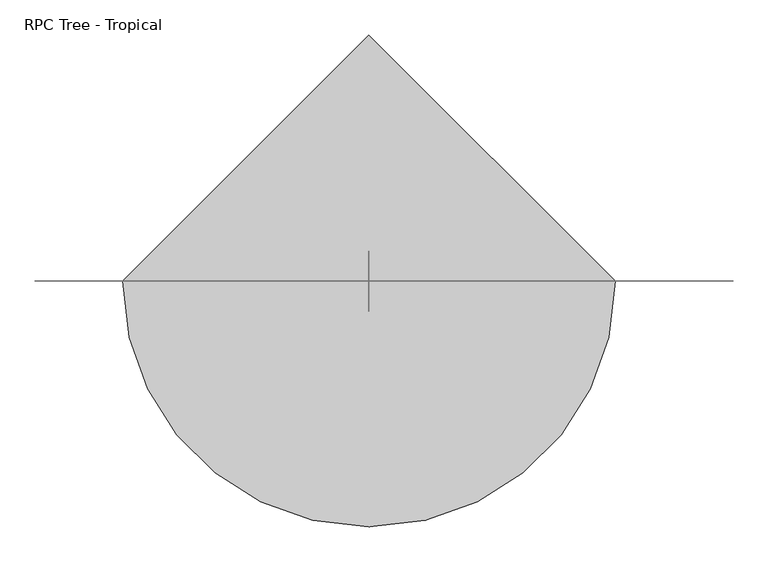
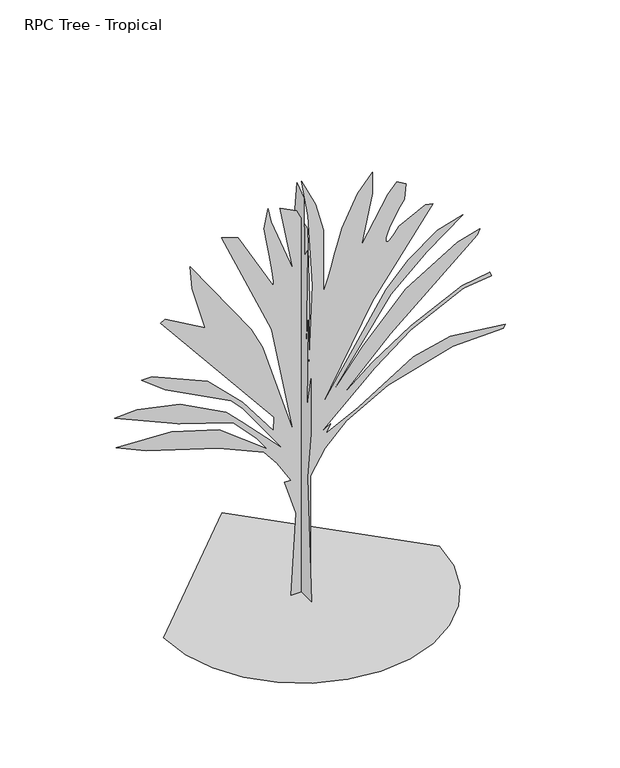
"""IFC4 building model written with IfcOpenShell, lengths in millimetres: geographic element geometry, RPC Tree - Tropical : Travelers Palm - 3.9 Meters."""

from ifc_helpers import new_model, si_unit, origin, place, context, project, spatial, triangles, source, transform, mapped, element, save


def rpc_tree_tropical_44340318(model_context):
    return source(origin(), model_context, "Body", "Tessellation", [
        triangles([(-92.0803806, -0.0077972, 0.060482), (-46.9646024, -0.0078429, 766.967938), (-152.2349211, -0.0078626, 1097.8156214), (-92.0803806, -0.0078623, 1092.8031366), (-217.401701, -0.0078745, 1298.3307804), (-337.7109999, -0.0078835, 1448.7157871), (-743.7512592, -0.007894, 1624.165979), (-1395.4241272, -0.0079062, 1829.6935501), (-1666.1167614, -0.0079137, 1955.0136623), (-1164.8315163, -0.0079122, 1929.9486225), (-738.7387745, -0.0079044, 1799.6160255), (-307.6334753, -0.0078847, 1468.7658714), (-402.8785337, -0.0078928, 1604.1134239), (-613.4187349, -0.0079059, 1824.6784492), (-1104.6764671, -0.0079155, 1985.0910416), (-1681.1568317, -0.0079307, 2240.7462215), (-1475.6291153, -0.0079313, 2250.7738071), (-1089.6389402, -0.0079262, 2165.5537182), (-678.5837254, -0.0079131, 1944.9885475), (-538.2236155, -0.0079047, 1804.6285103), (-167.2734381, -0.007882, 1423.6507473), (-523.1861249, -0.0079119, 1924.9361378), (-633.4686739, -0.0079188, 2040.233606), (-1224.9865654, -0.0079373, 2351.0288795), (-1435.5266212, -0.0079472, 2516.4513405), (-1340.2815628, -0.0079472, 2516.4513405), (-844.0088024, -0.007934, 2295.8887859), (-528.1986096, -0.0079158, 1990.1036716), (-252.4909836, -0.0078937, 1619.1533489), (-247.4789712, -0.0079014, 1749.4859459), (-1265.0890594, -0.0079758, 2997.6766182), (-1224.9865654, -0.0079773, 3022.7518318), (-864.0613575, -0.0079648, 2812.2016022), (-984.3689123, -0.0079896, 3228.2767868), (-999.40891, -0.0080021, 3438.8270164), (-453.0060699, -0.0079555, 2656.8014946), (-347.7360057, -0.007943, 2446.273938), (-72.0293698, -0.0078895, 1548.9733303), (-267.5309813, -0.0079516, 2591.6514015), (-718.6887629, -0.0080129, 3619.2770485), (-568.30114, -0.0080096, 3564.1519249), (-257.5059754, -0.0079764, 3007.7015877), (-249.5834757, -0.0079763, 3005.2767357), (-250.6059787, -0.0079784, 3040.9765915), (-259.0834773, -0.0079824, 3108.4768318), (-273.5234934, -0.007988, 3201.3766846), (-292.4334947, -0.0079947, 3313.376825), (-314.325981, -0.0080021, 3438.0770622), (-337.7109999, -0.0080099, 3569.1519104), (-297.6085058, -0.0080204, 3744.6019569), (-272.5434842, -0.0080126, 3614.277063), (-77.0418727, -0.0079815, 3092.9266182), (-192.3376967, -0.0080186, 3714.5270485), (-41.9520995, -0.0080141, 3639.3269875), (53.2924502, -0.0080018, 3433.8020325), (73.3437154, -0.0079612, 2752.0514946), (63.3179556, -0.0079164, 2000.1286411), (98.4077288, -0.007969, 2882.4016777), (58.3052029, -0.008009, 3554.1269554), (3.1637226, -0.0080296, 3900.0020645), (128.4849899, -0.0080141, 3639.3269875), (198.6650176, -0.0079979, 3368.6519394), (198.6650176, -0.0079636, 2792.1516632), (203.4877792, -0.0079638, 2795.8264389), (216.9920421, -0.007966, 2833.1764847), (237.730293, -0.0079699, 2898.5765625), (264.256817, -0.0079752, 2986.4267235), (295.1218298, -0.0079814, 3091.1017296), (328.8818513, -0.0079883, 3207.0269211), (364.089368, -0.0079956, 3328.5267723), (504.4494779, -0.0080123, 3609.252079), (639.796994, -0.0080216, 3764.6521866), (639.796994, -0.0080096, 3564.1519249), (539.5394872, -0.0079824, 3107.9768623), (780.1571039, -0.008006, 3503.9768188), (860.362092, -0.0080117, 3599.2271095), (940.5671528, -0.0080087, 3549.1019714), (925.5296986, -0.0080003, 3408.7518173), (888.2171505, -0.0079967, 3347.7767601), (852.6171432, -0.0079932, 3288.4518929), (820.4345873, -0.0079898, 3232.3518288), (793.3820961, -0.0079868, 3181.1267578), (773.1695944, -0.0079841, 3136.4018715), (761.5070795, -0.0079819, 3099.7767815), (760.1045488, -0.0079803, 3072.8766792), (766.8870564, -0.0079795, 3058.5516815), (778.1395672, -0.0079794, 3057.1267685), (793.1196121, -0.0079799, 3066.4267822), (811.0821058, -0.007981, 3084.3268524), (831.2796375, -0.0079825, 3108.6768196), (852.9671219, -0.0079842, 3137.326815), (875.3996189, -0.007986, 3168.1266792), (1116.017272, -0.0079932, 3288.4268944), (1181.1848059, -0.0079923, 3273.4019394), (639.796994, -0.0079483, 2536.5012794), (168.5880017, -0.0078976, 1684.3208828), (760.1045488, -0.0079525, 2606.6763565), (960.6197079, -0.0079651, 2817.2265862), (1221.2873726, -0.0079764, 3007.7015877), (1451.8799835, -0.0079806, 3077.9016632), (1131.0572697, -0.0079663, 2837.2765251), (805.2220711, -0.0079489, 2546.5265396), (243.7807958, -0.0079014, 1749.4859459), (559.5920059, -0.0079253, 2150.516264), (935.554668, -0.0079492, 2551.5515236), (1401.7499039, -0.007966, 2832.2515411), (1607.277475, -0.0079693, 2887.4016632), (1582.2125805, -0.0079666, 2842.3015091), (800.2071156, -0.0079268, 2175.5786877), (364.089368, -0.0079008, 1739.4609764), (639.796994, -0.007914, 1960.0261471), (985.684675, -0.0079274, 2185.6062733), (1441.8523979, -0.0079406, 2406.1712986), (1697.5100487, -0.007943, 2446.273938), (1707.5351635, -0.0079406, 2406.1712986), (1456.8924683, -0.0079388, 2376.093774), (985.684675, -0.007925, 2145.5036339), (659.8470057, -0.0079104, 1899.8735687), (178.6137706, -0.0078838, 1453.7282719), (263.8318066, -0.0078871, 1508.8708363), (223.7295306, -0.0078823, 1428.663232), (514.4744837, -0.007891, 1574.0358994), (1005.7346867, -0.0079095, 1884.8334984), (1341.5973255, -0.007914, 1960.0261471), (1832.8576012, -0.0079107, 1904.8860535), (1817.8176762, -0.0079086, 1869.7960442), (1361.6474098, -0.007908, 1859.7686039), (780.1571039, -0.0078979, 1689.3335129), (404.1918983, -0.0078856, 1483.8057964), (213.7037799, -0.0078742, 1293.3156796), (83.3694661, -0.0078614, 1077.763139), (83.3694661, -0.0077972, 0.0), (0.2420326, 53.1400295, 0.0511), (0.2420216, -154.4255849, 0.0510875), (0.2420326, -96.0480527, 1148.1506304), (0.2420216, -147.93958, 1595.715826), (0.2420216, -147.9393348, 2114.631245), (0.2420326, -89.5615482, 1803.2810635), (0.2420326, -102.5340576, 2646.5265404), (0.2420326, -70.1020392, 2341.6563412), (0.2420326, -96.0480527, 3301.6519592), (0.2420326, -50.64278, 3223.8017693), (0.2420326, -44.1565253, 3768.6772316), (0.2420433, 66.1132883, 3846.5021324), (0.2420433, 130.9775703, 3321.1019348), (0.2420433, 150.4368386, 2568.6763504), (0.2420433, 105.0318066, 1920.0386169), (0.2420326, 53.1400295, 1102.7456257), (-1239.0439922, 0.0, 0.0566583), (-1206.2815298, -283.9526533, 0.0566415), (-1112.9764692, -544.7152977, 0.056626), (-966.6013922, -774.8229092, 0.0566123), (-774.6262642, -966.7980371, 0.0566008), (-544.5186164, -1113.1731142, 0.056592), (-283.7559902, -1206.4781748, 0.0565865), (0.1967145, -1239.2406372, 0.0565845), (284.1493165, -1206.4781748, 0.0565865), (544.911979, -1113.1731142, 0.056592), (775.0195541, -966.7980371, 0.0566008), (966.9946821, -774.8229092, 0.0566123), (1113.3697592, -544.7152977, 0.056626), (1206.6748198, -283.9526533, 0.0566415), (1239.4372822, 0.0001083, 0.0566583), (0.1964973, 1239.2406372, 0.0567323)], [[59, 60, 61], [99, 100, 101], [8, 9, 10], [49, 50, 51], [98, 99, 101], [15, 16, 17], [15, 17, 18], [119, 120, 121], [34, 35, 36], [33, 34, 36], [98, 101, 102], [97, 98, 102], [24, 25, 26], [24, 26, 27], [23, 24, 27], [23, 27, 28], [22, 23, 28], [22, 28, 29], [21, 22, 29], [7, 8, 10], [7, 10, 11], [71, 72, 73], [106, 107, 108], [106, 108, 109], [105, 106, 109], [104, 105, 109], [104, 109, 110], [103, 104, 110], [39, 40, 41], [39, 41, 42], [52, 53, 54], [52, 54, 55], [52, 55, 56], [59, 61, 62], [58, 59, 62], [58, 62, 63], [57, 58, 63], [7, 11, 12], [6, 7, 12], [15, 18, 19], [14, 15, 19], [14, 19, 20], [13, 14, 20], [13, 20, 21], [12, 13, 21], [93, 94, 95], [92, 93, 95], [91, 92, 95], [90, 91, 95], [89, 90, 95], [88, 89, 95], [87, 88, 95], [2, 3, 4], [96, 97, 102], [96, 102, 103], [124, 125, 126], [124, 126, 127], [39, 42, 43], [49, 51, 52], [48, 49, 52], [47, 48, 52], [46, 47, 52], [45, 46, 52], [44, 45, 52], [86, 87, 95], [114, 115, 116], [113, 114, 116], [30, 31, 32], [30, 32, 33], [30, 33, 36], [30, 36, 37], [30, 37, 38], [29, 30, 38], [21, 29, 38], [131, 132, 1], [131, 1, 2], [131, 2, 4], [5, 6, 12], [5, 12, 21], [123, 124, 127], [123, 127, 128], [122, 123, 128], [122, 128, 129], [121, 122, 129], [121, 129, 130], [113, 116, 117], [112, 113, 117], [111, 112, 117], [111, 117, 118], [110, 111, 118], [110, 118, 119], [103, 110, 119], [96, 103, 119], [71, 73, 74], [70, 71, 74], [69, 70, 74], [68, 69, 74], [44, 52, 56], [43, 44, 56], [39, 43, 56], [39, 56, 57], [38, 39, 57], [75, 76, 77], [75, 77, 78], [74, 75, 78], [74, 78, 79], [74, 79, 80], [74, 80, 81], [74, 81, 82], [74, 82, 83], [74, 83, 84], [74, 84, 85], [67, 68, 74], [119, 121, 130], [130, 131, 4], [130, 4, 5], [130, 5, 21], [119, 130, 21], [119, 21, 38], [96, 119, 38], [96, 38, 57], [95, 96, 57], [95, 57, 63], [95, 63, 64], [86, 95, 64], [86, 64, 65], [86, 65, 66], [86, 66, 67], [86, 67, 74], [86, 74, 85], [138, 139, 140], [136, 137, 138], [140, 141, 142], [143, 144, 145], [142, 143, 145], [142, 145, 146], [140, 142, 146], [140, 146, 147], [138, 140, 147], [138, 147, 148], [136, 138, 148], [135, 136, 148], [134, 135, 148], [134, 148, 133], [163, 164, 149], [162, 163, 149], [162, 149, 150], [161, 162, 150], [161, 150, 151], [161, 151, 152], [160, 161, 152], [159, 160, 152], [159, 152, 153], [159, 153, 154], [159, 154, 155], [159, 155, 156], [159, 156, 157], [159, 157, 158]], closed=False),
    ])


if __name__ == "__main__":
    model = new_model("IFC4")
    model_context = context("Model", 3, world=origin())
    ifc_project = project(units=[si_unit("LENGTHUNIT", "METRE", prefix="MILLI")], contexts=[model_context])
    site = spatial("IfcSite", under=ifc_project)
    building = spatial("IfcBuilding", under=site)
    placement = place(None, origin())
    rpc_tree_tropical_shape = rpc_tree_tropical_44340318(model_context)
    element("IfcGeographicElement", 1, ObjectType="RPC Tree - Tropical : Travelers Palm - 3.9 Meters", at=placement, inside=building, context=model_context, shape_type="MappedRepresentation", body=[
        mapped(rpc_tree_tropical_shape, transform((0.0, 0.0, 0.0), x_axis=(1.0, 0.0, 0.0), y_axis=(0.0, 1.0, 0.0), z_axis=(0.0, 0.0, 1.0))),
    ])
    save(model, "model.ifc")
